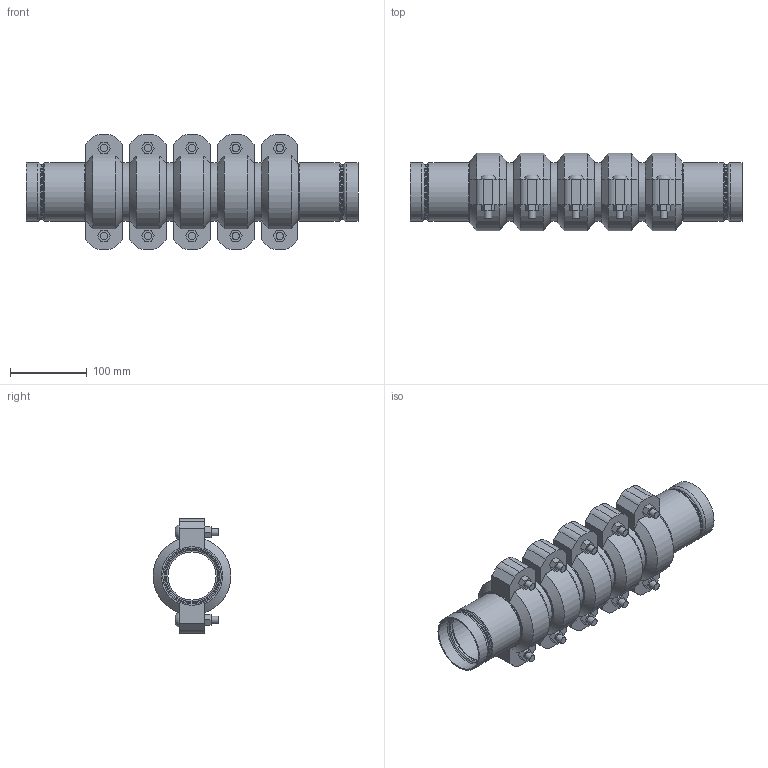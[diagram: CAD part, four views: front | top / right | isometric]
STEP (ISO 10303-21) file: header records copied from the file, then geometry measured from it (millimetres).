
FILE_DESCRIPTION(/* description */ ('VIC STRENGTHIN 100 EXPANSION JOINT 5 COUPLINGS COMPRESSED STYLE E155 (ST1)','CAx-IF Rec.Pracs.---Representation and Presentation of Product Manufacturing Information (PMI)---4.0---2014-10-13'),/* implementation_level */ '2;1');
FILE_NAME(/* name */ 'C:\Users\Vjadhav\AppData\Roaming\Autodesk\ApplicationPlugins\Victaulic.Temp\A149\Victaulic_SS-StrengThin 100_Expansion Joint_Compressed_5 Couplings_Style E155 (ST1)_02.5 (76.1) (65).stp',/* time_stamp */ '2021-07-23T12:32:30+05:00',/* author */ ('kkamble'),/* organization */ ('Victaulic'),/* preprocessor_version */ 'ST-DEVELOPER v17.2',/* originating_system */ 'Autodesk Inventor 2019',/* authorisation */ '');
FILE_SCHEMA (('AP242_MANAGED_MODEL_BASED_3D_ENGINEERING_MIM_LF { 1 0 10303 442 1 1 4 }'));
Length unit declared in the file: inch
Products named in the file (4): E155-02.5 (76.1); E494G-02.5 (76.1); Nipple-02.5 (76.1); 075-02.5 (76.1)
Assembly tree (11 placements, depth 2):
  E155-02.5 (76.1)
    E494G-02.5 (76.1)  x2
    Nipple-02.5 (76.1)  x4
    075-02.5 (76.1)  x5
Bounding box: 432.82 x 101.25 x 149.86 mm (x, y, z)
Volume: 1484212.8 mm3; surface area: 438325 mm2
Topology: 11 solids, 21 shells, 381 faces, 997 edges, 702 vertices
Faces by surface type: plane 206, cylinder 109, torus 32, cone 24, bspline 10
Full cylindrical faces by diameter (mm): 9.525 x20, 11.43 x10, 62.713 x4, 67.158 x2, 69.063 x2, 70.358 x2, 72.263 x10, 73 x6, 76.2 x23
Entity records: 3697 total; most frequent: CARTESIAN_POINT 675, DIRECTION 649, ORIENTED_EDGE 544, AXIS2_PLACEMENT_3D 275, EDGE_CURVE 272, VERTEX_POINT 195, CIRCLE 163, EDGE_LOOP 121
